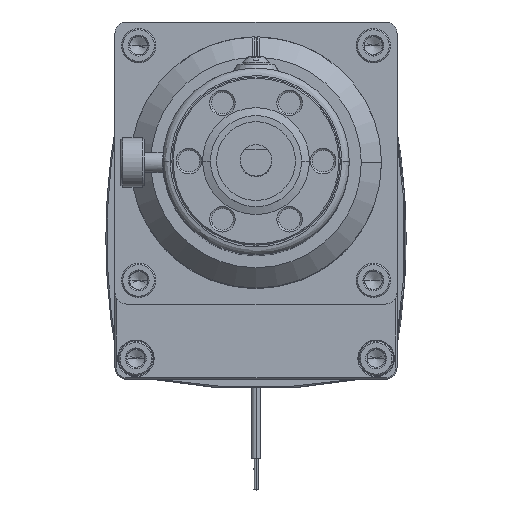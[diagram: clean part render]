
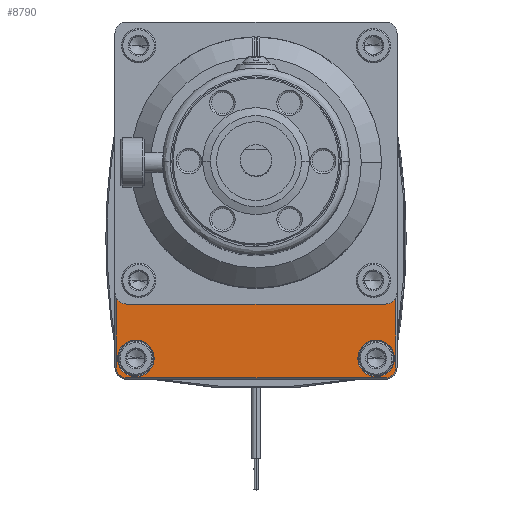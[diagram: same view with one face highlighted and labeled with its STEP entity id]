
A CAD part, top view. The second image highlights one B-rep face of the part: STEP entity #8790.
In plain terms, the highlighted planar face has unit normal (0, 0, 1).
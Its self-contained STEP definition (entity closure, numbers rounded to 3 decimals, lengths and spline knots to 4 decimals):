
#3391 = CARTESIAN_POINT ( 'NONE',  ( 2.0447, -3.9218, -23.0149 ) ) ;
#3726 = CARTESIAN_POINT ( 'NONE',  ( -2.7813, -3.9218, -23.0149 ) ) ;
#4389 = ORIENTED_EDGE ( 'NONE', *, *, #88686, .T. ) ;
#4390 = ORIENTED_EDGE ( 'NONE', *, *, #88605, .T. ) ;
#4392 = ORIENTED_EDGE ( 'NONE', *, *, #88477, .F. ) ;
#4398 = ORIENTED_EDGE ( 'NONE', *, *, #88727, .T. ) ;
#4402 = ORIENTED_EDGE ( 'NONE', *, *, #88385, .F. ) ;
#4403 = ORIENTED_EDGE ( 'NONE', *, *, #88680, .T. ) ;
#4404 = ORIENTED_EDGE ( 'NONE', *, *, #69815, .T. ) ;
#4406 = ORIENTED_EDGE ( 'NONE', *, *, #88697, .T. ) ;
#4938 = ORIENTED_EDGE ( 'NONE', *, *, #88706, .T. ) ;
#4945 = ORIENTED_EDGE ( 'NONE', *, *, #69205, .T. ) ;
#4949 = ORIENTED_EDGE ( 'NONE', *, *, #88713, .F. ) ;
#4954 = ORIENTED_EDGE ( 'NONE', *, *, #88606, .T. ) ;
#5708 = DIRECTION ( 'NONE',  ( 0., 0., 1. ) ) ;
#5710 = CARTESIAN_POINT ( 'NONE',  ( 0., -0.7544, -23.0149 ) ) ;
#5712 = PLANE ( 'NONE',  #56975 ) ;
#5714 = DIRECTION ( 'NONE',  ( 0., -1., 0. ) ) ;
#8790 = ADVANCED_FACE ( 'NONE', ( #86401, #86406, #86409 ), #5712, .T. ) ;
#10566 = CARTESIAN_POINT ( 'NONE',  ( 2.8067, -2.7011, -23.0149 ) ) ;
#10584 = CARTESIAN_POINT ( 'NONE',  ( 2.5941, -2.8321, -23.0149 ) ) ;
#10954 = CARTESIAN_POINT ( 'NONE',  ( -2.0447, -3.9218, -23.0149 ) ) ;
#10972 = CARTESIAN_POINT ( 'NONE',  ( -2.5933, -4.3155, -23.0149 ) ) ;
#11440 = CARTESIAN_POINT ( 'NONE',  ( 2.8067, -4.1021, -23.0149 ) ) ;
#11675 = CARTESIAN_POINT ( 'NONE',  ( 2.5933, -4.3155, -23.0149 ) ) ;
#11695 = CARTESIAN_POINT ( 'NONE',  ( -2.5941, -2.8321, -23.0149 ) ) ;
#11787 = CARTESIAN_POINT ( 'NONE',  ( -2.8067, -4.1021, -23.0149 ) ) ;
#11882 = CARTESIAN_POINT ( 'NONE',  ( 2.7813, -3.9218, -23.0149 ) ) ;
#12099 = CARTESIAN_POINT ( 'NONE',  ( -2.8067, -2.7011, -23.0149 ) ) ;
#17165 = CARTESIAN_POINT ( 'NONE',  ( -2.413, -3.9218, -23.0149 ) ) ;
#17167 = DIRECTION ( 'NONE',  ( 0., 0., -1. ) ) ;
#17169 = DIRECTION ( 'NONE',  ( 1., 0., 0. ) ) ;
#22345 = LINE ( 'NONE', #24707, #22355 ) ;
#22355 = VECTOR ( 'NONE', #24712, 100. ) ;
#22522 = CIRCLE ( 'NONE', #51706, 0.238 ) ;
#22844 = LINE ( 'NONE', #25491, #22856 ) ;
#22846 = LINE ( 'NONE', #25496, #22852 ) ;
#22852 = VECTOR ( 'NONE', #25498, 100. ) ;
#22856 = VECTOR ( 'NONE', #25499, 100. ) ;
#24707 = CARTESIAN_POINT ( 'NONE',  ( 0., -2.8321, -23.0149 ) ) ;
#24712 = DIRECTION ( 'NONE',  ( 1., 0., 0. ) ) ;
#25124 = CARTESIAN_POINT ( 'NONE',  ( -2.5941, -2.5941, -23.0149 ) ) ;
#25125 = DIRECTION ( 'NONE',  ( 0., 0., 1. ) ) ;
#25126 = DIRECTION ( 'NONE',  ( -1., 0., 0. ) ) ;
#25491 = CARTESIAN_POINT ( 'NONE',  ( -2.8067, -0.7544, -23.0149 ) ) ;
#25496 = CARTESIAN_POINT ( 'NONE',  ( 2.8067, -0.7544, -23.0149 ) ) ;
#25498 = DIRECTION ( 'NONE',  ( 0., 1., 0. ) ) ;
#25499 = DIRECTION ( 'NONE',  ( 0., -1., 0. ) ) ;
#25722 = CARTESIAN_POINT ( 'NONE',  ( 2.413, -3.9218, -23.0149 ) ) ;
#25723 = DIRECTION ( 'NONE',  ( 0., 0., -1. ) ) ;
#25724 = DIRECTION ( 'NONE',  ( 1., 0., 0. ) ) ;
#25733 = CARTESIAN_POINT ( 'NONE',  ( 0., -4.3155, -23.0149 ) ) ;
#25734 = DIRECTION ( 'NONE',  ( 1., 0., 0. ) ) ;
#25763 = CARTESIAN_POINT ( 'NONE',  ( -2.5933, -4.1021, -23.0149 ) ) ;
#25764 = DIRECTION ( 'NONE',  ( 0., 0., 1. ) ) ;
#25765 = DIRECTION ( 'NONE',  ( -1., 0., 0. ) ) ;
#25782 = CARTESIAN_POINT ( 'NONE',  ( 2.5933, -4.1021, -23.0149 ) ) ;
#25783 = DIRECTION ( 'NONE',  ( 0., 0., 1. ) ) ;
#25784 = DIRECTION ( 'NONE',  ( 0., 1., 0. ) ) ;
#25802 = CARTESIAN_POINT ( 'NONE',  ( 2.5941, -2.5941, -23.0149 ) ) ;
#25803 = DIRECTION ( 'NONE',  ( 0., 0., 1. ) ) ;
#25804 = DIRECTION ( 'NONE',  ( -1., 0., 0. ) ) ;
#25832 = CARTESIAN_POINT ( 'NONE',  ( -2.413, -3.9218, -23.0149 ) ) ;
#25833 = DIRECTION ( 'NONE',  ( 0., 0., -1. ) ) ;
#25834 = DIRECTION ( 'NONE',  ( 1., 0., 0. ) ) ;
#28350 = VERTEX_POINT ( 'NONE', #3391 ) ;
#29271 = VERTEX_POINT ( 'NONE', #3726 ) ;
#29766 = VERTEX_POINT ( 'NONE', #10566 ) ;
#29784 = VERTEX_POINT ( 'NONE', #10584 ) ;
#30177 = VERTEX_POINT ( 'NONE', #10954 ) ;
#30196 = VERTEX_POINT ( 'NONE', #10972 ) ;
#30697 = VERTEX_POINT ( 'NONE', #11440 ) ;
#30949 = VERTEX_POINT ( 'NONE', #11675 ) ;
#30973 = VERTEX_POINT ( 'NONE', #11695 ) ;
#31068 = VERTEX_POINT ( 'NONE', #11787 ) ;
#31163 = VERTEX_POINT ( 'NONE', #11882 ) ;
#31380 = VERTEX_POINT ( 'NONE', #12099 ) ;
#41206 = EDGE_LOOP ( 'NONE', ( #4949, #4402, #4392, #4954, #4406, #4389, #4938, #4390 ) ) ;
#41560 = EDGE_LOOP ( 'NONE', ( #4945, #4403 ) ) ;
#42146 = EDGE_LOOP ( 'NONE', ( #4404, #4398 ) ) ;
#44873 = CIRCLE ( 'NONE', #51896, 0.3683 ) ;
#44900 = LINE ( 'NONE', #25733, #44906 ) ;
#44906 = VECTOR ( 'NONE', #25734, 100. ) ;
#44934 = CIRCLE ( 'NONE', #51907, 0.2134 ) ;
#44963 = CIRCLE ( 'NONE', #51912, 0.2134 ) ;
#44979 = CIRCLE ( 'NONE', #51919, 0.238 ) ;
#45029 = CIRCLE ( 'NONE', #51923, 0.3683 ) ;
#49211 = CARTESIAN_POINT ( 'NONE',  ( 2.413, -3.9218, -23.0149 ) ) ;
#49212 = DIRECTION ( 'NONE',  ( 0., 0., -1. ) ) ;
#49213 = DIRECTION ( 'NONE',  ( 1., 0., 0. ) ) ;
#50119 = AXIS2_PLACEMENT_3D ( 'NONE', #49211, #49212, #49213 ) ;
#50341 = AXIS2_PLACEMENT_3D ( 'NONE', #17165, #17167, #17169 ) ;
#51706 = AXIS2_PLACEMENT_3D ( 'NONE', #25124, #25125, #25126 ) ;
#51896 = AXIS2_PLACEMENT_3D ( 'NONE', #25722, #25723, #25724 ) ;
#51907 = AXIS2_PLACEMENT_3D ( 'NONE', #25763, #25764, #25765 ) ;
#51912 = AXIS2_PLACEMENT_3D ( 'NONE', #25782, #25783, #25784 ) ;
#51919 = AXIS2_PLACEMENT_3D ( 'NONE', #25802, #25803, #25804 ) ;
#51923 = AXIS2_PLACEMENT_3D ( 'NONE', #25832, #25833, #25834 ) ;
#56975 = AXIS2_PLACEMENT_3D ( 'NONE', #5710, #5708, #5714 ) ;
#60400 = CIRCLE ( 'NONE', #50119, 0.3683 ) ;
#60946 = CIRCLE ( 'NONE', #50341, 0.3683 ) ;
#69205 = EDGE_CURVE ( 'NONE', #31163, #28350, #60400, .T. ) ;
#69815 = EDGE_CURVE ( 'NONE', #30177, #29271, #60946, .T. ) ;
#86401 = FACE_BOUND ( 'NONE', #42146, .T. ) ;
#86406 = FACE_BOUND ( 'NONE', #41560, .T. ) ;
#86409 = FACE_OUTER_BOUND ( 'NONE', #41206, .T. ) ;
#88385 = EDGE_CURVE ( 'NONE', #30973, #29784, #22345, .T. ) ;
#88477 = EDGE_CURVE ( 'NONE', #31380, #30973, #22522, .T. ) ;
#88605 = EDGE_CURVE ( 'NONE', #30697, #29766, #22846, .T. ) ;
#88606 = EDGE_CURVE ( 'NONE', #31380, #31068, #22844, .T. ) ;
#88680 = EDGE_CURVE ( 'NONE', #28350, #31163, #44873, .T. ) ;
#88686 = EDGE_CURVE ( 'NONE', #30196, #30949, #44900, .T. ) ;
#88697 = EDGE_CURVE ( 'NONE', #31068, #30196, #44934, .T. ) ;
#88706 = EDGE_CURVE ( 'NONE', #30949, #30697, #44963, .T. ) ;
#88713 = EDGE_CURVE ( 'NONE', #29784, #29766, #44979, .T. ) ;
#88727 = EDGE_CURVE ( 'NONE', #29271, #30177, #45029, .T. ) ;
